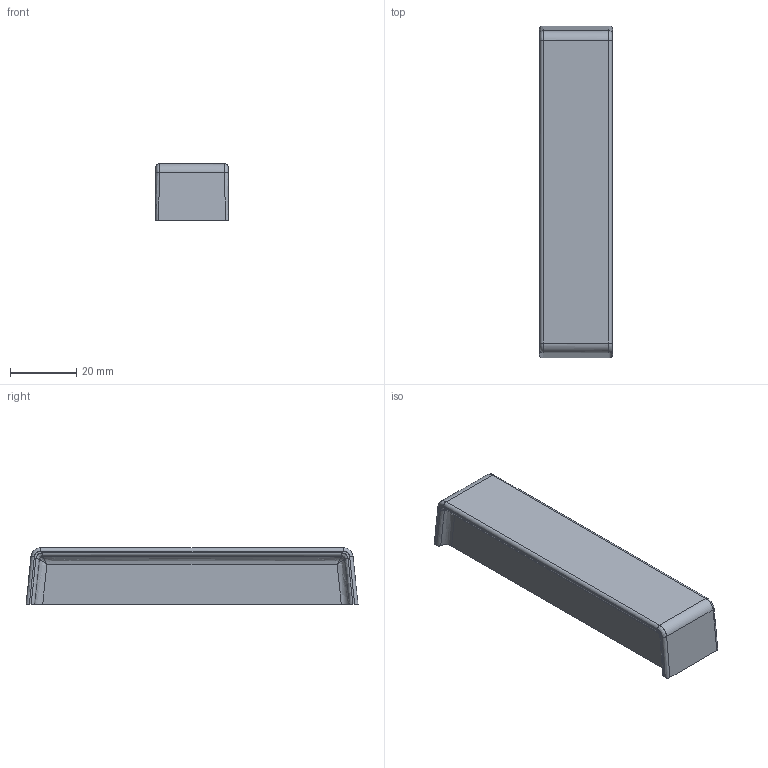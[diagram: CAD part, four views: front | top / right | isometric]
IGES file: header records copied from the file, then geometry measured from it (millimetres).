
Start section: C
Global section: file name: 8138-100.igs; native system: By Siemens PLM Incorporated; preprocessor: XPlus GENERIC/IGES 16.0.42; author: Author; organization: Title; date: 20231121.091309; units: millimetre
Bounding box: 22 x 100 x 17 mm (x, y, z)
Surface area: 12094.8 mm2 (no closed solid volume)
Topology: 0 solids, 0 shells, 227 faces, 1472 edges, 1464 vertices
Faces by surface type: bspline 227
